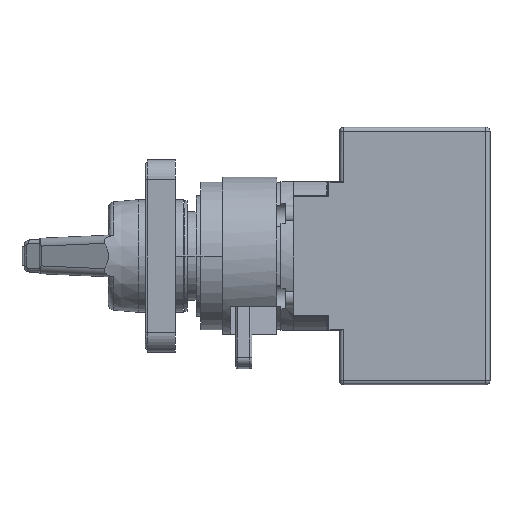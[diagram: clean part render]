
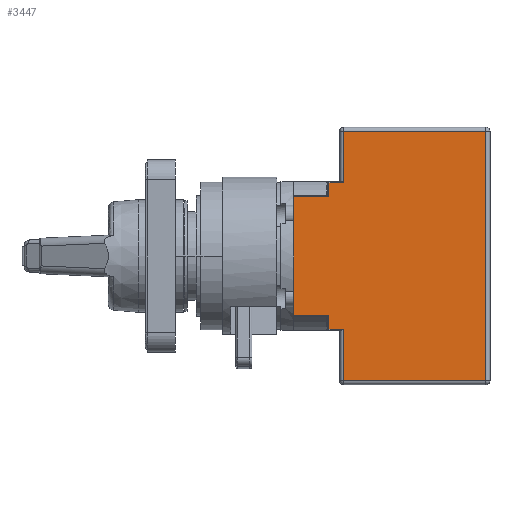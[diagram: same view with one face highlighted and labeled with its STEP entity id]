
A CAD part, left-side view. The second image highlights one B-rep face of the part: STEP entity #3447.
In plain terms, the highlighted planar face has unit normal (-1, 0, 0).
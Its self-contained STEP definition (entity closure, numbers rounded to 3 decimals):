
#118 = LINE ( 'NONE', #9909, #303 ) ;
#132 = ORIENTED_EDGE ( 'NONE', *, *, #7595, .T. ) ;
#209 = LINE ( 'NONE', #9286, #15689 ) ;
#303 = VECTOR ( 'NONE', #6860, 1000. ) ;
#670 = VERTEX_POINT ( 'NONE', #16239 ) ;
#962 = DIRECTION ( 'NONE',  ( 0., 0., -1. ) ) ;
#1204 = VERTEX_POINT ( 'NONE', #13492 ) ;
#2096 = DIRECTION ( 'NONE',  ( -1., 0., 0. ) ) ;
#2276 = CARTESIAN_POINT ( 'NONE',  ( -24., 0., 31. ) ) ;
#2281 = CARTESIAN_POINT ( 'NONE',  ( -24., 36.4, -31. ) ) ;
#2318 = LINE ( 'NONE', #19745, #5639 ) ;
#2342 = ORIENTED_EDGE ( 'NONE', *, *, #5655, .F. ) ;
#2352 = DIRECTION ( 'NONE',  ( 0., 0., -1. ) ) ;
#2935 = VERTEX_POINT ( 'NONE', #15995 ) ;
#3187 = CIRCLE ( 'NONE', #6936, 0.5 ) ;
#3447 = ADVANCED_FACE ( 'NONE', ( #10575 ), #16247, .F. ) ;
#3640 = DIRECTION ( 'NONE',  ( 0., 1., 0. ) ) ;
#3716 = CARTESIAN_POINT ( 'NONE',  ( -24., 36.4, 0. ) ) ;
#3758 = LINE ( 'NONE', #8018, #18851 ) ;
#4087 = DIRECTION ( 'NONE',  ( 1., 0., 0. ) ) ;
#4305 = AXIS2_PLACEMENT_3D ( 'NONE', #10171, #4087, #19412 ) ;
#4461 = CARTESIAN_POINT ( 'NONE',  ( -24., 48.8, -14.75 ) ) ;
#4591 = CARTESIAN_POINT ( 'NONE',  ( -24., 40.05, 0. ) ) ;
#5035 = EDGE_CURVE ( 'NONE', #16552, #11478, #16506, .T. ) ;
#5396 = CARTESIAN_POINT ( 'NONE',  ( -24., 40.05, -15.25 ) ) ;
#5639 = VECTOR ( 'NONE', #16246, 1000. ) ;
#5655 = EDGE_CURVE ( 'NONE', #8613, #11045, #3758, .T. ) ;
#5875 = CARTESIAN_POINT ( 'NONE',  ( -24., 40.55, 14.75 ) ) ;
#5947 = VECTOR ( 'NONE', #17163, 1000. ) ;
#5963 = ORIENTED_EDGE ( 'NONE', *, *, #8386, .T. ) ;
#6042 = ORIENTED_EDGE ( 'NONE', *, *, #8186, .F. ) ;
#6085 = EDGE_CURVE ( 'NONE', #19317, #11045, #6928, .T. ) ;
#6485 = ORIENTED_EDGE ( 'NONE', *, *, #16827, .T. ) ;
#6600 = LINE ( 'NONE', #9721, #17787 ) ;
#6624 = VERTEX_POINT ( 'NONE', #5396 ) ;
#6729 = DIRECTION ( 'NONE',  ( 0., -1., 0. ) ) ;
#6860 = DIRECTION ( 'NONE',  ( 0., 0., 1. ) ) ;
#6871 = VERTEX_POINT ( 'NONE', #19513 ) ;
#6928 = LINE ( 'NONE', #11009, #5947 ) ;
#6936 = AXIS2_PLACEMENT_3D ( 'NONE', #16166, #19780, #962 ) ;
#7053 = CARTESIAN_POINT ( 'NONE',  ( -24., 40.05, 18.25 ) ) ;
#7473 = LINE ( 'NONE', #14550, #19694 ) ;
#7480 = CARTESIAN_POINT ( 'NONE',  ( -24., 36.4, 31. ) ) ;
#7595 = EDGE_CURVE ( 'NONE', #670, #14877, #7473, .T. ) ;
#7639 = ORIENTED_EDGE ( 'NONE', *, *, #17887, .T. ) ;
#7653 = AXIS2_PLACEMENT_3D ( 'NONE', #8761, #2096, #2352 ) ;
#7686 = LINE ( 'NONE', #15311, #9636 ) ;
#7805 = ORIENTED_EDGE ( 'NONE', *, *, #16588, .T. ) ;
#7894 = ORIENTED_EDGE ( 'NONE', *, *, #5035, .T. ) ;
#8018 = CARTESIAN_POINT ( 'NONE',  ( -24., 48.8, -18.5 ) ) ;
#8185 = DIRECTION ( 'NONE',  ( 0., -1., 0. ) ) ;
#8186 = EDGE_CURVE ( 'NONE', #19317, #2935, #3187, .T. ) ;
#8386 = EDGE_CURVE ( 'NONE', #14016, #14477, #209, .T. ) ;
#8438 = LINE ( 'NONE', #17979, #8836 ) ;
#8613 = VERTEX_POINT ( 'NONE', #4461 ) ;
#8650 = EDGE_CURVE ( 'NONE', #10499, #2935, #13191, .T. ) ;
#8761 = CARTESIAN_POINT ( 'NONE',  ( -24., 40.55, -15.25 ) ) ;
#8836 = VECTOR ( 'NONE', #10024, 1000. ) ;
#8905 = CARTESIAN_POINT ( 'NONE',  ( -24., 36.4, 18.25 ) ) ;
#9286 = CARTESIAN_POINT ( 'NONE',  ( -24., 0., -31. ) ) ;
#9378 = ORIENTED_EDGE ( 'NONE', *, *, #8650, .T. ) ;
#9636 = VECTOR ( 'NONE', #8185, 1000. ) ;
#9721 = CARTESIAN_POINT ( 'NONE',  ( -24., 0., 18.25 ) ) ;
#9909 = CARTESIAN_POINT ( 'NONE',  ( -24., 1., 0. ) ) ;
#10024 = DIRECTION ( 'NONE',  ( 0., 0., -1. ) ) ;
#10171 = CARTESIAN_POINT ( 'NONE',  ( -24., 0., 0. ) ) ;
#10207 = ORIENTED_EDGE ( 'NONE', *, *, #11768, .T. ) ;
#10326 = VECTOR ( 'NONE', #15335, 1000. ) ;
#10499 = VERTEX_POINT ( 'NONE', #7053 ) ;
#10575 = FACE_OUTER_BOUND ( 'NONE', #12184, .T. ) ;
#10689 = DIRECTION ( 'NONE',  ( 0., 1., 0. ) ) ;
#11009 = CARTESIAN_POINT ( 'NONE',  ( -24., 0., 14.75 ) ) ;
#11045 = VERTEX_POINT ( 'NONE', #17725 ) ;
#11349 = ORIENTED_EDGE ( 'NONE', *, *, #16069, .F. ) ;
#11478 = VERTEX_POINT ( 'NONE', #8905 ) ;
#11768 = EDGE_CURVE ( 'NONE', #11478, #10499, #6600, .T. ) ;
#12184 = EDGE_LOOP ( 'NONE', ( #6042, #19555, #2342, #15170, #11349, #12584, #132, #6485, #5963, #7805, #7639, #7894, #10207, #9378 ) ) ;
#12202 = VECTOR ( 'NONE', #10689, 1000. ) ;
#12327 = EDGE_CURVE ( 'NONE', #8613, #6871, #7686, .T. ) ;
#12584 = ORIENTED_EDGE ( 'NONE', *, *, #17341, .T. ) ;
#12740 = LINE ( 'NONE', #2276, #12202 ) ;
#13191 = LINE ( 'NONE', #4591, #10326 ) ;
#13492 = CARTESIAN_POINT ( 'NONE',  ( -24., 1., 31. ) ) ;
#13936 = CARTESIAN_POINT ( 'NONE',  ( -24., 36.4, -18.25 ) ) ;
#14016 = VERTEX_POINT ( 'NONE', #2281 ) ;
#14394 = DIRECTION ( 'NONE',  ( 0., 0., 1. ) ) ;
#14477 = VERTEX_POINT ( 'NONE', #16190 ) ;
#14550 = CARTESIAN_POINT ( 'NONE',  ( -24., 0., -18.25 ) ) ;
#14877 = VERTEX_POINT ( 'NONE', #13936 ) ;
#15170 = ORIENTED_EDGE ( 'NONE', *, *, #12327, .T. ) ;
#15260 = DIRECTION ( 'NONE',  ( 0., -1., 0. ) ) ;
#15311 = CARTESIAN_POINT ( 'NONE',  ( -24., 0., -14.75 ) ) ;
#15335 = DIRECTION ( 'NONE',  ( 0., 0., -1. ) ) ;
#15689 = VECTOR ( 'NONE', #6729, 1000. ) ;
#15995 = CARTESIAN_POINT ( 'NONE',  ( -24., 40.05, 15.25 ) ) ;
#16069 = EDGE_CURVE ( 'NONE', #6624, #6871, #19020, .T. ) ;
#16166 = CARTESIAN_POINT ( 'NONE',  ( -24., 40.55, 15.25 ) ) ;
#16190 = CARTESIAN_POINT ( 'NONE',  ( -24., 1., -31. ) ) ;
#16239 = CARTESIAN_POINT ( 'NONE',  ( -24., 40.05, -18.25 ) ) ;
#16246 = DIRECTION ( 'NONE',  ( 0., 0., -1. ) ) ;
#16247 = PLANE ( 'NONE',  #4305 ) ;
#16506 = LINE ( 'NONE', #3716, #16729 ) ;
#16552 = VERTEX_POINT ( 'NONE', #7480 ) ;
#16588 = EDGE_CURVE ( 'NONE', #14477, #1204, #118, .T. ) ;
#16729 = VECTOR ( 'NONE', #18240, 1000. ) ;
#16827 = EDGE_CURVE ( 'NONE', #14877, #14016, #8438, .T. ) ;
#17163 = DIRECTION ( 'NONE',  ( 0., 1., 0. ) ) ;
#17341 = EDGE_CURVE ( 'NONE', #6624, #670, #2318, .T. ) ;
#17725 = CARTESIAN_POINT ( 'NONE',  ( -24., 48.8, 14.75 ) ) ;
#17787 = VECTOR ( 'NONE', #3640, 1000. ) ;
#17887 = EDGE_CURVE ( 'NONE', #1204, #16552, #12740, .T. ) ;
#17979 = CARTESIAN_POINT ( 'NONE',  ( -24., 36.4, 0. ) ) ;
#18240 = DIRECTION ( 'NONE',  ( 0., 0., -1. ) ) ;
#18851 = VECTOR ( 'NONE', #14394, 1000. ) ;
#19020 = CIRCLE ( 'NONE', #7653, 0.5 ) ;
#19317 = VERTEX_POINT ( 'NONE', #5875 ) ;
#19412 = DIRECTION ( 'NONE',  ( 0., 0., -1. ) ) ;
#19513 = CARTESIAN_POINT ( 'NONE',  ( -24., 40.55, -14.75 ) ) ;
#19555 = ORIENTED_EDGE ( 'NONE', *, *, #6085, .T. ) ;
#19694 = VECTOR ( 'NONE', #15260, 1000. ) ;
#19745 = CARTESIAN_POINT ( 'NONE',  ( -24., 40.05, -18.5 ) ) ;
#19780 = DIRECTION ( 'NONE',  ( -1., 0., 0. ) ) ;
